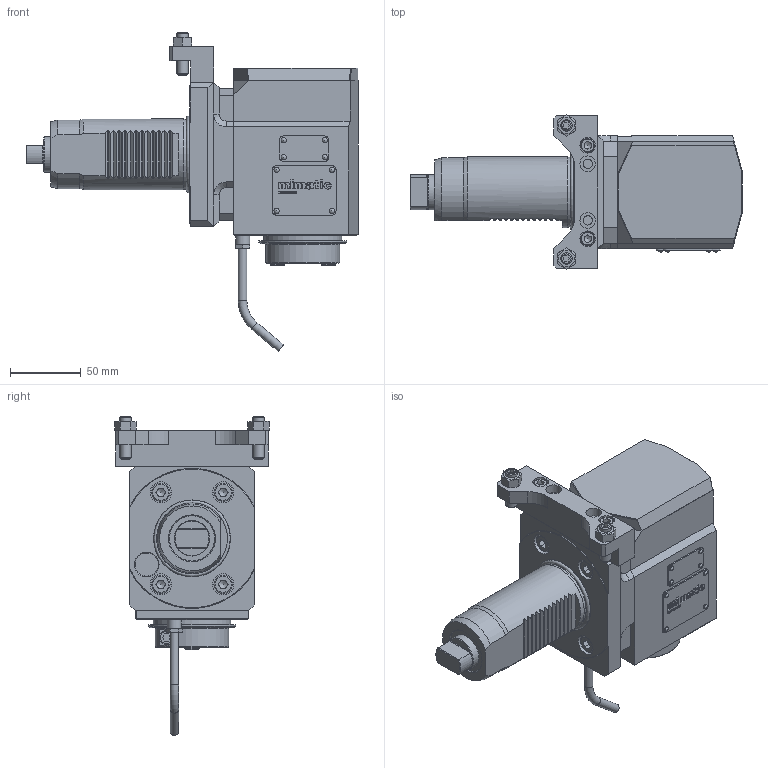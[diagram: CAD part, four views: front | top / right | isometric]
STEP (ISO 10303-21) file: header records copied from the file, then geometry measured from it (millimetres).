
FILE_DESCRIPTION(/* description */ (''),/* implementation_level */ '2;1');
FILE_NAME(/* name */ '188640',/* time_stamp */ '2020-07-20T13:37:07+02:00',/* author */ (''),/* organization */ (''),/* preprocessor_version */ 'ST-DEVELOPER v16.5',/* originating_system */ 'HiCAD 2017 2201.0 Build 268',/* authorisation */ '');
FILE_SCHEMA (('AUTOMOTIVE_DESIGN { 1 0 10303 214 1 1 1 1 }'));
Products named in the file (78): Root; Leeres Teil; 189771_BG-Schaft-EM-C-50_10*; 001_000X_201*; DIN 13-M20x1; 114012_O-Ring 47.29x2.6_330*; DIN 912      (Innensechskant)_Zylinderschraube 8x35_400*; GEWINDE; ISO 4032-M 8-6_Sechskantmutter ISO 4032-M 8-6_350*; DIN 913-M 8x30-45H_Gewindwstift DIN 913-M 8x30-45H_420*; Normteilgruppe _0; DIN 912      (Innensechskant)_Zylinderschraube 6x25_401*; 001_000X_205*; DIN 13-M8; ROTATIONSTEIL_1_200*; DIN 13-M50x1; Leeres Teil_20*; DIN 912      (Innensechskant)_Zylinderschraube 6x16_405*; 00087098_340*; DIN 76-M10x1; DIN 913-M 10x1x8-45H_Gewindestifte; ROTATIONSTEIL_0_150*; DIN 13-M25x1; DIN 76-M5; DIN 76-M10; DIN 76-M6; 002_000X_100*; 003_000X_235*; BG_M10; 112485_Überwurfschraube_353*; 112384_Doppelkegelring D6_352*; TORUS_1_354*; 00011769_372*; 113692_Kerbnagel 2x4_380*; QUADER_0_370*
Assembly tree (77 placements, depth 8):
  Root
    Leeres Teil
      189771_BG-Schaft-EM-C-50_10*
        Leeres Teil
          Leeres Teil
            001_000X_201*
              DIN 13-M20x1
          Leeres Teil
        Leeres Teil
          Leeres Teil
            114012_O-Ring 47.29x2.6_330*
            Leeres Teil
              DIN 912      (Innensechskant)_Zylinderschraube 8x35_400*
                GEWINDE
              DIN 912      (Innensechskant)_Zylinderschraube 8x35_400*
                GEWINDE
              DIN 912      (Innensechskant)_Zylinderschraube 8x35_400*
                GEWINDE
              DIN 912      (Innensechskant)_Zylinderschraube 8x35_400*
                GEWINDE
          Leeres Teil
            ISO 4032-M 8-6_Sechskantmutter ISO 4032-M 8-6_350*
              GEWINDE
            ISO 4032-M 8-6_Sechskantmutter ISO 4032-M 8-6_350*
              GEWINDE
            DIN 913-M 8x30-45H_Gewindwstift DIN 913-M 8x30-45H_420*
              GEWINDE
            DIN 913-M 8x30-45H_Gewindwstift DIN 913-M 8x30-45H_420*
              GEWINDE
            Normteilgruppe _0
              DIN 912      (Innensechskant)_Zylinderschraube 6x25_401*
                GEWINDE
              DIN 912      (Innensechskant)_Zylinderschraube 6x25_401*
                GEWINDE
            001_000X_205*
              DIN 13-M8
          ROTATIONSTEIL_1_200*
            DIN 13-M50x1
      Leeres Teil_20*
        Leeres Teil
          Leeres Teil
            DIN 912      (Innensechskant)_Zylinderschraube 6x16_405*
              GEWINDE
            DIN 912      (Innensechskant)_Zylinderschraube 6x16_405*
              GEWINDE
            00087098_340*
              DIN 76-M10x1
              DIN 913-M 10x1x8-45H_Gewindestifte
                GEWINDE
          Leeres Teil
            ROTATIONSTEIL_0_150*
              DIN 13-M25x1
              DIN 76-M5
              DIN 76-M10
              DIN 76-M6
        Leeres Teil
          Leeres Teil
            002_000X_100*
            003_000X_235*
          Leeres Teil
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Bounding box: 234.5 x 109.04 x 225.17 mm (x, y, z)
Volume: 1292251.9 mm3; surface area: 189230.3 mm2
Topology: 49 solids, 49 shells, 1421 faces, 3540 edges, 2321 vertices
Faces by surface type: plane 970, cylinder 179, bspline 176, cone 61, torus 27, sphere 8
Full cylindrical faces by diameter (mm): 2 x8, 2.2 x8, 4 x2, 4.773 x8, 5 x4, 6 x15, 6.466 x8, 6.6 x6, 8 x10, 8.5 x3, 8.773 x2, 9 x2, 10 x10, 11 x6, 13 x4, 15 x4, 16.3 x1, 20 x1, 25 x3, 25.4 x1, 48.7 x1, 50 x1, 52 x1, 55 x2, 62 x1
Entity records: 77420 total; most frequent: CARTESIAN_POINT 12715, PRESENTATION_STYLE_ASSIGNMENT 6572, COLOUR_RGB 6527, OVER_RIDING_STYLED_ITEM 6525, DRAUGHTING_PRE_DEFINED_CURVE_FONT 6522, CURVE_STYLE 6522, ORIENTED_EDGE 6522, DIRECTION 5972
